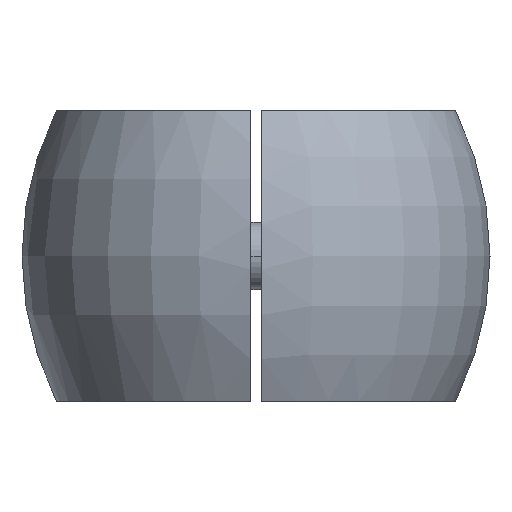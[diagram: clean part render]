
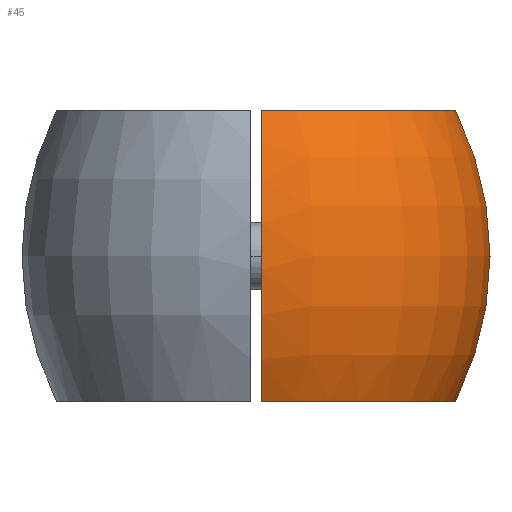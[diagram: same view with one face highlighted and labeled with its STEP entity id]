
A CAD part, left-side view. The second image highlights one B-rep face of the part: STEP entity #45.
In plain terms, the highlighted toroidal (fillet/blend) face has major radius 8 mm and minor radius 28.95 mm.
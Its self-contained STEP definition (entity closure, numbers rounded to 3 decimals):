
#29 = CARTESIAN_POINT ( 'NONE',  ( -20.944, -0.5, -1.128 ) ) ;
#45 = ADVANCED_FACE ( 'NONE', ( #254 ), #1333, .T. ) ;
#159 = CARTESIAN_POINT ( 'NONE',  ( 0., 8., 0. ) ) ;
#176 = DIRECTION ( 'NONE',  ( -1., 0., 0. ) ) ;
#191 = AXIS2_PLACEMENT_3D ( 'NONE', #810, #1106, #2611 ) ;
#254 = FACE_OUTER_BOUND ( 'NONE', #2043, .T. ) ;
#341 = EDGE_CURVE ( 'NONE', #1063, #1563, #802, .T. ) ;
#395 = B_SPLINE_CURVE_WITH_KNOTS ( 'NONE', 3,
 ( #2012, #731, #505, #1023, #3051, #2051, #2286, #767, #29, #2093, #2327, #803, #1845, #3103, #1326, #2318, #2840, #2562 ),
 .UNSPECIFIED., .F., .F.,
 ( 4, 2, 2, 2, 2, 2, 2, 2, 4 ),
 ( 0., 0.007, 0.008, 0.01, 0.013, 0.017, 0.018, 0.02, 0.027 ),
 .UNSPECIFIED. ) ;
#490 = ORIENTED_EDGE ( 'NONE', *, *, #1663, .F. ) ;
#494 = CARTESIAN_POINT ( 'NONE',  ( 0., 0., 0. ) ) ;
#505 = CARTESIAN_POINT ( 'NONE',  ( -19.641, -0.5, -8.873 ) ) ;
#581 = AXIS2_PLACEMENT_3D ( 'NONE', #494, #3281, #772 ) ;
#731 = CARTESIAN_POINT ( 'NONE',  ( -18.878, -0.5, -10.975 ) ) ;
#767 = CARTESIAN_POINT ( 'NONE',  ( -20.879, -0.5, -2.248 ) ) ;
#772 = DIRECTION ( 'NONE',  ( 0., -1., 0. ) ) ;
#802 = CIRCLE ( 'NONE', #1345, 17.867 ) ;
#803 = CARTESIAN_POINT ( 'NONE',  ( -20.687, -0.5, 3.893 ) ) ;
#810 = CARTESIAN_POINT ( 'NONE',  ( 0., 0., 13. ) ) ;
#932 = DIRECTION ( 'NONE',  ( 0., -1., 0. ) ) ;
#1023 = CARTESIAN_POINT ( 'NONE',  ( -20.288, -0.5, -6.151 ) ) ;
#1063 = VERTEX_POINT ( 'NONE', #1697 ) ;
#1106 = DIRECTION ( 'NONE',  ( 0., 0., -1. ) ) ;
#1183 = CARTESIAN_POINT ( 'NONE',  ( 0., -17.867, 13. ) ) ;
#1222 = ORIENTED_EDGE ( 'NONE', *, *, #3182, .T. ) ;
#1326 = CARTESIAN_POINT ( 'NONE',  ( -20.296, -0.5, 6.114 ) ) ;
#1333 = TOROIDAL_SURFACE ( 'NONE', #581, -8., 28.95 ) ;
#1345 = AXIS2_PLACEMENT_3D ( 'NONE', #1470, #2681, #932 ) ;
#1470 = CARTESIAN_POINT ( 'NONE',  ( 0., 0., -13. ) ) ;
#1563 = VERTEX_POINT ( 'NONE', #3041 ) ;
#1663 = EDGE_CURVE ( 'NONE', #1563, #2192, #395, .T. ) ;
#1697 = CARTESIAN_POINT ( 'NONE',  ( 0., -17.867, -13. ) ) ;
#1845 = CARTESIAN_POINT ( 'NONE',  ( -20.606, -0.5, 4.448 ) ) ;
#1925 = ORIENTED_EDGE ( 'NONE', *, *, #2391, .T. ) ;
#2012 = CARTESIAN_POINT ( 'NONE',  ( -17.86, -0.5, -13. ) ) ;
#2043 = EDGE_LOOP ( 'NONE', ( #2531, #1222, #1925, #490 ) ) ;
#2051 = CARTESIAN_POINT ( 'NONE',  ( -20.599, -0.5, -4.493 ) ) ;
#2054 = AXIS2_PLACEMENT_3D ( 'NONE', #159, #176, #2750 ) ;
#2093 = CARTESIAN_POINT ( 'NONE',  ( -20.944, -0.5, 1.108 ) ) ;
#2192 = VERTEX_POINT ( 'NONE', #2272 ) ;
#2272 = CARTESIAN_POINT ( 'NONE',  ( -17.86, -0.5, 13. ) ) ;
#2286 = CARTESIAN_POINT ( 'NONE',  ( -20.681, -0.5, -3.933 ) ) ;
#2318 = CARTESIAN_POINT ( 'NONE',  ( -19.646, -0.5, 8.863 ) ) ;
#2327 = CARTESIAN_POINT ( 'NONE',  ( -20.88, -0.5, 2.224 ) ) ;
#2337 = VERTEX_POINT ( 'NONE', #1183 ) ;
#2387 = CIRCLE ( 'NONE', #2054, 28.95 ) ;
#2391 = EDGE_CURVE ( 'NONE', #2337, #2192, #2699, .T. ) ;
#2531 = ORIENTED_EDGE ( 'NONE', *, *, #341, .F. ) ;
#2562 = CARTESIAN_POINT ( 'NONE',  ( -17.86, -0.5, 13. ) ) ;
#2611 = DIRECTION ( 'NONE',  ( 0., -1., 0. ) ) ;
#2681 = DIRECTION ( 'NONE',  ( 0., 0., -1. ) ) ;
#2699 = CIRCLE ( 'NONE', #191, 17.867 ) ;
#2750 = DIRECTION ( 'NONE',  ( 0., 0., 1. ) ) ;
#2840 = CARTESIAN_POINT ( 'NONE',  ( -18.878, -0.5, 10.975 ) ) ;
#3041 = CARTESIAN_POINT ( 'NONE',  ( -17.86, -0.5, -13. ) ) ;
#3051 = CARTESIAN_POINT ( 'NONE',  ( -20.402, -0.5, -5.601 ) ) ;
#3103 = CARTESIAN_POINT ( 'NONE',  ( -20.411, -0.5, 5.558 ) ) ;
#3182 = EDGE_CURVE ( 'NONE', #1063, #2337, #2387, .T. ) ;
#3281 = DIRECTION ( 'NONE',  ( 0., 0., 1. ) ) ;
